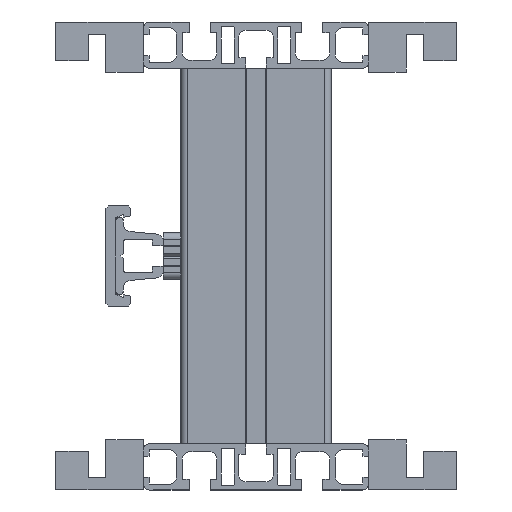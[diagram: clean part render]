
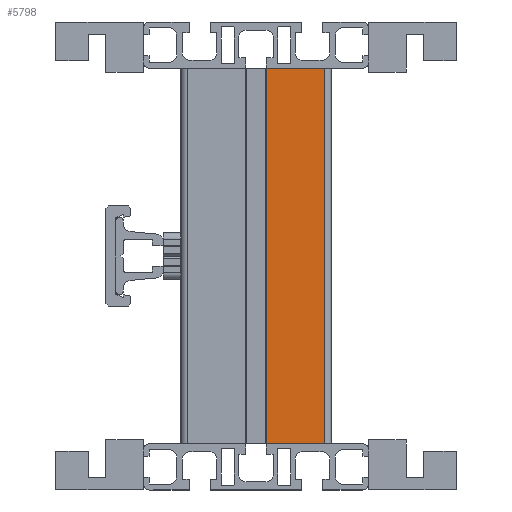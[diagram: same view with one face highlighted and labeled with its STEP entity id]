
A CAD part, left-side view. The second image highlights one B-rep face of the part: STEP entity #5798.
In plain terms, the highlighted planar face has unit normal (-1, 0, 0).
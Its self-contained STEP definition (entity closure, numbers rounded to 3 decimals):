
#464 = LINE ( 'NONE', #1476, #26397 ) ;
#873 = AXIS2_PLACEMENT_3D ( 'NONE', #25903, #11316, #21721 ) ;
#1476 = CARTESIAN_POINT ( 'NONE',  ( -215., -72.5, -75. ) ) ;
#1701 = VECTOR ( 'NONE', #24769, 1000. ) ;
#4159 = VERTEX_POINT ( 'NONE', #25584 ) ;
#5451 = EDGE_CURVE ( 'NONE', #11561, #21897, #464, .T. ) ;
#5780 = VECTOR ( 'NONE', #7251, 1000. ) ;
#5798 = ADVANCED_FACE ( 'NONE', ( #25717 ), #23628, .F. ) ;
#7251 = DIRECTION ( 'NONE',  ( 0., 0., 1. ) ) ;
#9656 = CARTESIAN_POINT ( 'NONE',  ( -215., -49.15, 75. ) ) ;
#10468 = CARTESIAN_POINT ( 'NONE',  ( -215., -72.5, -75. ) ) ;
#10915 = CARTESIAN_POINT ( 'NONE',  ( -215., -72.5, 75. ) ) ;
#11316 = DIRECTION ( 'NONE',  ( 1., 0., 0. ) ) ;
#11532 = LINE ( 'NONE', #21784, #5780 ) ;
#11561 = VERTEX_POINT ( 'NONE', #18807 ) ;
#12780 = ORIENTED_EDGE ( 'NONE', *, *, #26258, .F. ) ;
#14050 = EDGE_LOOP ( 'NONE', ( #23061, #24694, #12780, #25507 ) ) ;
#15368 = VECTOR ( 'NONE', #24613, 1000. ) ;
#17944 = EDGE_CURVE ( 'NONE', #21897, #20386, #26000, .T. ) ;
#18807 = CARTESIAN_POINT ( 'NONE',  ( -215., -72.5, -75. ) ) ;
#20141 = DIRECTION ( 'NONE',  ( 0., 0., 1. ) ) ;
#20386 = VERTEX_POINT ( 'NONE', #9656 ) ;
#21721 = DIRECTION ( 'NONE',  ( 0., 0., -1. ) ) ;
#21784 = CARTESIAN_POINT ( 'NONE',  ( -215., -49.15, -75. ) ) ;
#21897 = VERTEX_POINT ( 'NONE', #10915 ) ;
#22828 = EDGE_CURVE ( 'NONE', #4159, #20386, #11532, .T. ) ;
#23061 = ORIENTED_EDGE ( 'NONE', *, *, #17944, .T. ) ;
#23628 = PLANE ( 'NONE',  #873 ) ;
#24613 = DIRECTION ( 'NONE',  ( 0., 1., 0. ) ) ;
#24694 = ORIENTED_EDGE ( 'NONE', *, *, #22828, .F. ) ;
#24762 = LINE ( 'NONE', #10468, #15368 ) ;
#24769 = DIRECTION ( 'NONE',  ( 0., 1., 0. ) ) ;
#25507 = ORIENTED_EDGE ( 'NONE', *, *, #5451, .T. ) ;
#25584 = CARTESIAN_POINT ( 'NONE',  ( -215., -49.15, -75. ) ) ;
#25717 = FACE_OUTER_BOUND ( 'NONE', #14050, .T. ) ;
#25903 = CARTESIAN_POINT ( 'NONE',  ( -215., -72.5, -75. ) ) ;
#26000 = LINE ( 'NONE', #26243, #1701 ) ;
#26243 = CARTESIAN_POINT ( 'NONE',  ( -215., -72.5, 75. ) ) ;
#26258 = EDGE_CURVE ( 'NONE', #11561, #4159, #24762, .T. ) ;
#26397 = VECTOR ( 'NONE', #20141, 1000. ) ;
